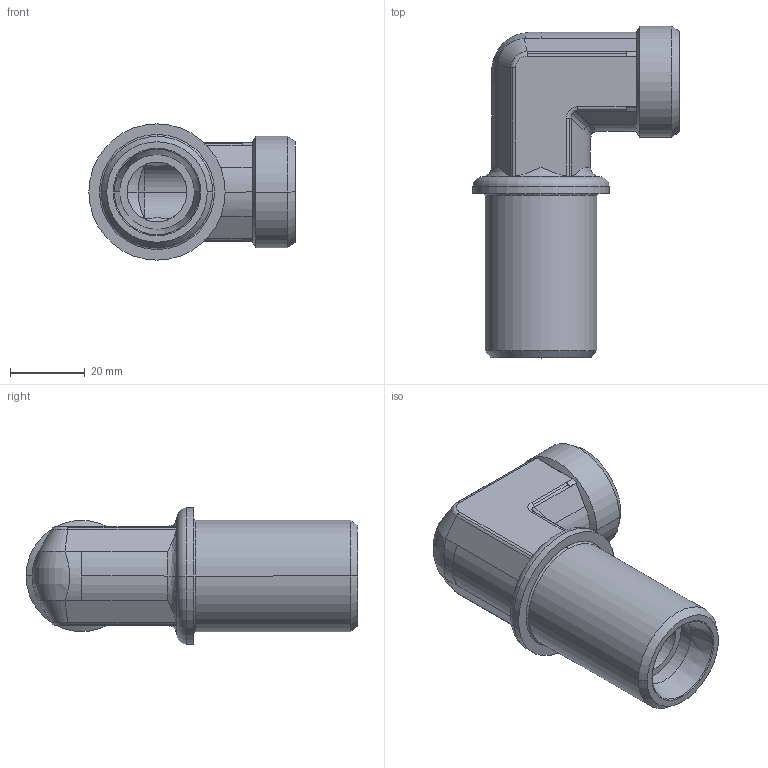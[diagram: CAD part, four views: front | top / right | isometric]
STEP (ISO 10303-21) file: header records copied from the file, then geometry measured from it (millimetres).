
FILE_DESCRIPTION((''),'2;1');
FILE_NAME('103720.stp','2007-10-31T11:45:37',(''),(''),'AutoCAD STEP 2000i','AutoCAD 2000i',', , ');
FILE_SCHEMA(('CONFIG_CONTROL_DESIGN'));
Length unit declared in the file: millimetre
Products named in the file (2): 103720.0; 3092#0
Assembly tree (1 placements, depth 2):
  103720.0
    3092#0
Bounding box: 55.25 x 88.91 x 36.5 mm (x, y, z)
Volume: 47497.7 mm3; surface area: 17315.2 mm2
Topology: 1 solids, 1 shells, 115 faces, 271 edges, 161 vertices
Faces by surface type: cylinder 50, plane 27, cone 18, bspline 16, torus 4
Entity records: 4404 total; most frequent: CARTESIAN_POINT 1664, DIRECTION 585, ORIENTED_EDGE 542, EDGE_CURVE 271, AXIS2_PLACEMENT_3D 248, VERTEX_POINT 161, CIRCLE 129, EDGE_LOOP 120
